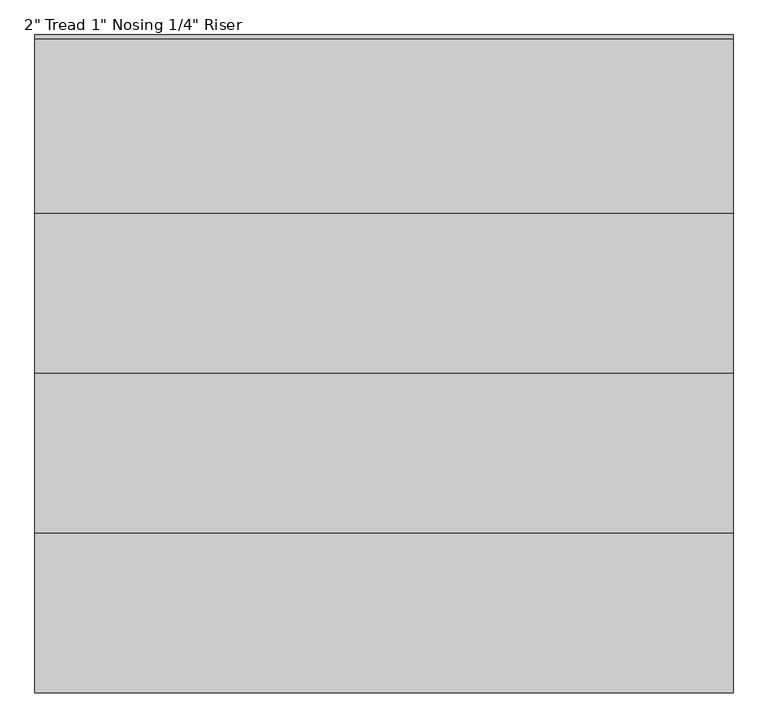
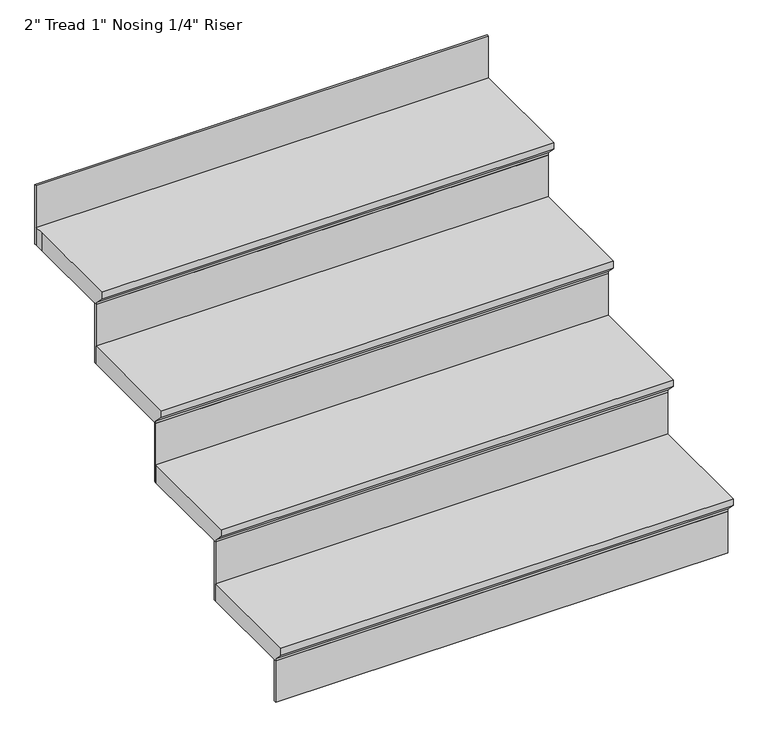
"""IFC4 building model written with IfcOpenShell, lengths in millimetres: stair flight geometry."""

from ifc_helpers import new_model, si_unit, origin, place, context, project, spatial, faceted_brep, source, transform, mapped, element, save


def stair_flight_a050f997(model_context):
    return source(origin(), model_context, "Body", "Brep", [
        faceted_brep([(-4473.217382, 3796.5483604, 150.2833333), (-4473.217382, 3796.5483604, 169.3333333), (-5692.417382, 3796.5483604, 169.3333333), (-5692.417382, 3796.5483604, 150.2833333), (-4473.217382, 3821.9483604, 124.8833333), (-5692.417382, 3821.9483604, 124.8833333), (-4473.217382, 4101.3483604, 169.3333333), (-5692.417382, 4101.3483604, 169.3333333), (-5692.417382, 3821.9483604, 118.5333333), (-5692.417382, 4101.3483604, 118.5333333), (-4473.217382, 4101.3483604, 118.5333333), (-4473.217382, 3821.9483604, 118.5333333)], [[[0, 1, 2, 3]], [[4, 0, 3, 5]], [[2, 1, 6, 7]], [[8, 9, 10, 11]], [[2, 7, 9, 8, 5, 3]], [[8, 11, 4, 5]], [[6, 1, 0, 4, 11, 10]], [[7, 6, 10, 9]]]),
        faceted_brep([(-4473.217382, 3821.9483604, 118.5333333), (-4473.217382, 3821.9483604, 0.0), (-4473.217382, 3828.2983604, 0.0), (-4473.217382, 3828.2983604, 118.5333333), (-5692.417382, 3821.9483604, 118.5333333), (-5692.417382, 3828.2983604, 118.5333333), (-5692.417382, 3828.2983604, 0.0), (-5692.417382, 3821.9483604, 0.0)], [[[0, 1, 2, 3]], [[4, 5, 6, 7]], [[1, 0, 4, 7]], [[2, 1, 7, 6]], [[3, 2, 6, 5]], [[0, 3, 5, 4]]]),
        faceted_brep([(-4473.217382, 4101.3483604, 287.8666667), (-4473.217382, 4101.3483604, 118.5333333), (-4473.217382, 4107.6983604, 118.5333333), (-4473.217382, 4107.6983604, 287.8666667), (-5692.417382, 4101.3483604, 287.8666667), (-5692.417382, 4107.6983604, 287.8666667), (-5692.417382, 4107.6983604, 118.5333333), (-5692.417382, 4101.3483604, 118.5333333)], [[[0, 1, 2, 3]], [[4, 5, 6, 7]], [[1, 0, 4, 7]], [[2, 1, 7, 6]], [[3, 2, 6, 5]], [[0, 3, 5, 4]]]),
        faceted_brep([(-5692.417382, 4075.9483604, 338.6666667), (-4473.217382, 4075.9483604, 338.6666667), (-4473.217382, 4380.7483604, 338.6666667), (-5692.417382, 4380.7483604, 338.6666667), (-5692.417382, 4101.3483604, 287.8666667), (-5692.417382, 4380.7483604, 287.8666667), (-4473.217382, 4380.7483604, 287.8666667), (-4473.217382, 4101.3483604, 287.8666667), (-5692.417382, 4101.3483604, 294.2166667), (-5692.417382, 4075.9483604, 319.6166667), (-4473.217382, 4101.3483604, 294.2166667), (-4473.217382, 4075.9483604, 319.6166667)], [[[0, 1, 2, 3]], [[4, 5, 6, 7]], [[0, 3, 5, 4, 8, 9]], [[4, 7, 10, 8]], [[2, 1, 11, 10, 7, 6]], [[3, 2, 6, 5]], [[11, 1, 0, 9]], [[10, 11, 9, 8]]]),
        faceted_brep([(-4473.217382, 4380.7483604, 457.2), (-4473.217382, 4380.7483604, 287.8666667), (-4473.217382, 4387.0983604, 287.8666667), (-4473.217382, 4387.0983604, 457.2), (-5692.417382, 4380.7483604, 457.2), (-5692.417382, 4387.0983604, 457.2), (-5692.417382, 4387.0983604, 287.8666667), (-5692.417382, 4380.7483604, 287.8666667)], [[[0, 1, 2, 3]], [[4, 5, 6, 7]], [[1, 0, 4, 7]], [[2, 1, 7, 6]], [[3, 2, 6, 5]], [[0, 3, 5, 4]]]),
        faceted_brep([(-5692.417382, 4355.3483604, 508.0), (-4473.217382, 4355.3483604, 508.0), (-4473.217382, 4660.1483604, 508.0), (-5692.417382, 4660.1483604, 508.0), (-5692.417382, 4380.7483604, 457.2), (-5692.417382, 4660.1483604, 457.2), (-4473.217382, 4660.1483604, 457.2), (-4473.217382, 4380.7483604, 457.2), (-5692.417382, 4380.7483604, 463.55), (-5692.417382, 4355.3483604, 488.95), (-4473.217382, 4380.7483604, 463.55), (-4473.217382, 4355.3483604, 488.95)], [[[0, 1, 2, 3]], [[4, 5, 6, 7]], [[0, 3, 5, 4, 8, 9]], [[4, 7, 10, 8]], [[2, 1, 11, 10, 7, 6]], [[3, 2, 6, 5]], [[11, 1, 0, 9]], [[10, 11, 9, 8]]]),
        faceted_brep([(-4473.217382, 4939.5483604, 795.8666667), (-4473.217382, 4939.5483604, 626.5333333), (-4473.217382, 4945.8983604, 626.5333333), (-4473.217382, 4945.8983604, 795.8666667), (-5692.417382, 4939.5483604, 795.8666667), (-5692.417382, 4945.8983604, 795.8666667), (-5692.417382, 4945.8983604, 626.5333333), (-5692.417382, 4939.5483604, 626.5333333)], [[[0, 1, 2, 3]], [[4, 5, 6, 7]], [[1, 0, 4, 7]], [[2, 1, 7, 6]], [[3, 2, 6, 5]], [[0, 3, 5, 4]]]),
        faceted_brep([(-4473.217382, 4660.1483604, 626.5333333), (-4473.217382, 4660.1483604, 457.2), (-4473.217382, 4666.4983604, 457.2), (-4473.217382, 4666.4983604, 626.5333333), (-5692.417382, 4660.1483604, 626.5333333), (-5692.417382, 4666.4983604, 626.5333333), (-5692.417382, 4666.4983604, 457.2), (-5692.417382, 4660.1483604, 457.2)], [[[0, 1, 2, 3]], [[4, 5, 6, 7]], [[1, 0, 4, 7]], [[2, 1, 7, 6]], [[3, 2, 6, 5]], [[0, 3, 5, 4]]]),
        faceted_brep([(-5692.417382, 4939.5483604, 677.3333333), (-5692.417382, 4914.1483604, 677.3333333), (-5692.417382, 4634.7483604, 677.3333333), (-4473.217382, 4634.7483604, 677.3333333), (-4473.217382, 4914.1483604, 677.3333333), (-4473.217382, 4939.5483604, 677.3333333), (-5692.417382, 4914.1483604, 626.5333333), (-5692.417382, 4939.5483604, 626.5333333), (-4473.217382, 4939.5483604, 626.5333333), (-4473.217382, 4914.1483604, 626.5333333), (-4473.217382, 4660.1483604, 626.5333333), (-5692.417382, 4660.1483604, 626.5333333), (-5692.417382, 4660.1483604, 632.8833333), (-5692.417382, 4634.7483604, 658.2833333), (-4473.217382, 4660.1483604, 632.8833333), (-4473.217382, 4634.7483604, 658.2833333)], [[[0, 1, 2, 3, 4, 5]], [[6, 7, 8, 9, 10, 11]], [[1, 0, 7, 6]], [[2, 1, 6, 11, 12, 13]], [[11, 10, 14, 12]], [[4, 3, 15, 14, 10, 9]], [[5, 4, 9, 8]], [[0, 5, 8, 7]], [[15, 3, 2, 13]], [[14, 15, 13, 12]]]),
    ])


if __name__ == "__main__":
    model = new_model("IFC4")
    model_context = context("Model", 3, world=origin())
    ifc_project = project(units=[si_unit("LENGTHUNIT", "METRE", prefix="MILLI")], contexts=[model_context])
    site = spatial("IfcSite", under=ifc_project)
    building = spatial("IfcBuilding", under=site)
    placement = place(None, origin())
    stair_flight_shape = stair_flight_a050f997(model_context)
    element("IfcStairFlight", 1, ObjectType="2\" Tread 1\" Nosing 1/4\" Riser", at=placement, inside=building, context=model_context, shape_type="MappedRepresentation", body=[
        mapped(stair_flight_shape, transform((0.0, 0.0, 0.0), x_axis=(1.0, 0.0, 0.0), y_axis=(0.0, 1.0, 0.0), z_axis=(0.0, 0.0, 1.0))),
    ])
    save(model, "model.ifc")
